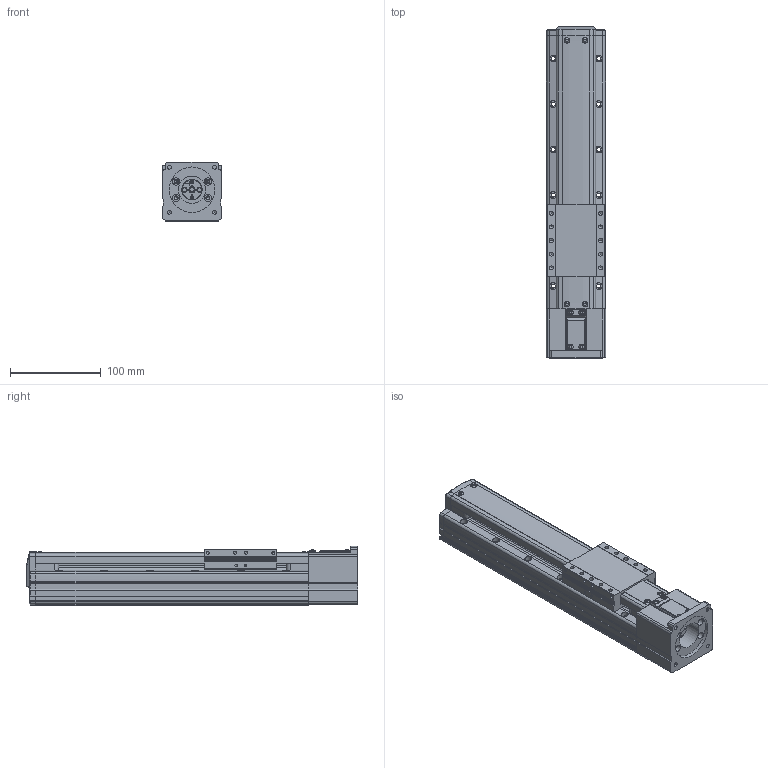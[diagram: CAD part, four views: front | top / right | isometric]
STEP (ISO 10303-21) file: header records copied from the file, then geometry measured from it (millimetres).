
FILE_DESCRIPTION(('STEP AP214'),'1');
FILE_NAME('Z:/Web/3D/PSA65/STP/PSA65-150 (3D)/PSA65ㅁㅁ-150S.stp','2014-06-25T03:08:55',(' '),(' '),'Spatial InterOp 3D',' ',' ');
FILE_SCHEMA(('automotive_design'));
Length unit declared in the file: millimetre
Products named in the file (80): SLIDE; RRCV-PA060; 1; 2; 3; 4; 5; 6; 7; 8; 9; 10; 11; 12; 13; 14; 15; 16; 17; 18; 19; 20; 21; 22; 23; 24; 25; 26; 27; 28; 29; 30; 31; 스크루 : Round - M3.0 x 8.0; RN8 x 0.75; SHAFT-SAN65; BASE; 스크루 : Round - M3.0 x 6.0; MTHZ - PSA65-60A; CPLCV-SAN45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
Bounding box: 65 x 364.8 x 65 mm (x, y, z)
Volume: 1136858.9 mm3; surface area: 188631.5 mm2
Topology: 80 solids, 80 shells, 2306 faces, 6097 edges, 3914 vertices
Faces by surface type: plane 1212, cylinder 722, cone 299, sphere 30, bspline 23, torus 20
Entity records: 92928 total; most frequent: CARTESIAN_POINT 15019, DIRECTION 12499, ORIENTED_EDGE 11986, EDGE_CURVE 5993, AXIS2_PLACEMENT_3D 4332, VERTEX_POINT 3914, LINE 3835, VECTOR 3835
